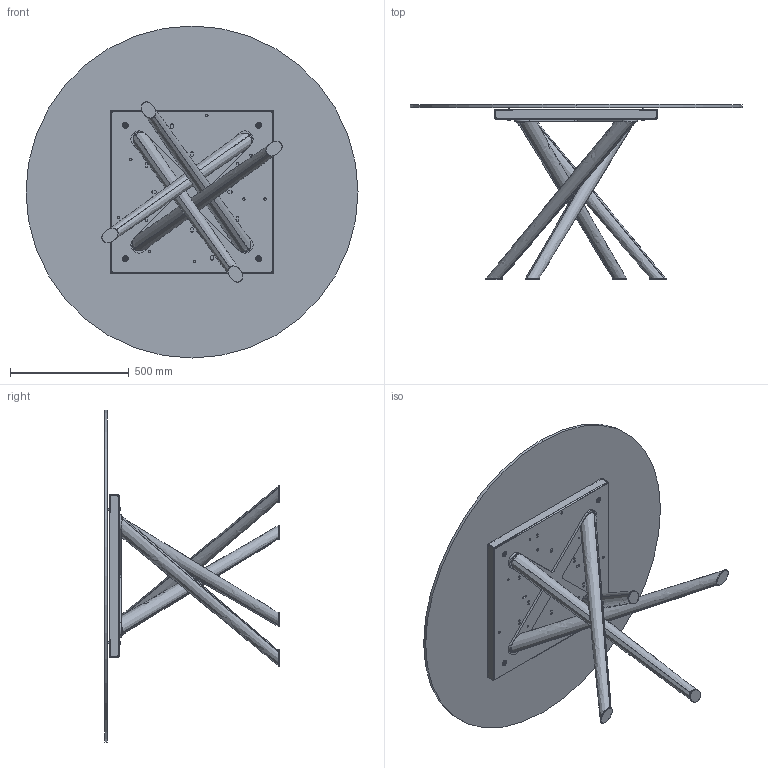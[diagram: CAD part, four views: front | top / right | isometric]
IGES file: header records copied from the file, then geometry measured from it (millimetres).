
Start section: SolidWorks IGES file using analytic representation for surfaces
Global section: file name: Y:\eforma\TECNICO\SOLIDWORKS\E-FORMA\1-TAVOLI\BALY\02 parts\BA06G.IGS; native system: SolidWorks 2022; preprocessor: SolidWorks 2022; author: eforma.tech; date: 240808.084003; units: millimetre
Bounding box: 1400 x 737 x 1400 mm (x, y, z)
Volume: 23150438.5 mm3; surface area: 5944415.8 mm2
Topology: 23 solids, 23 shells, 685 faces, 1761 edges, 1118 vertices
Faces by surface type: revolution 367, plane 310, bspline 8
